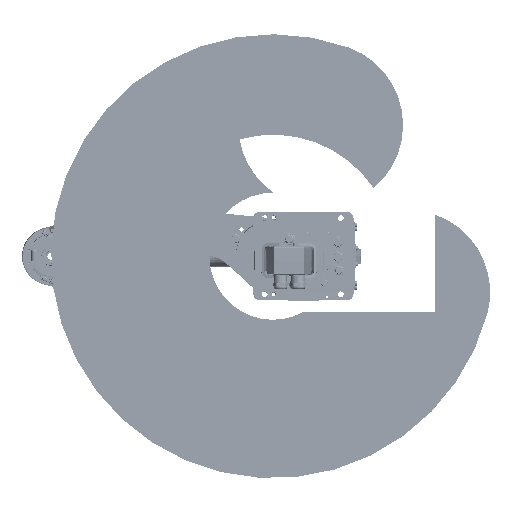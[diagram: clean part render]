
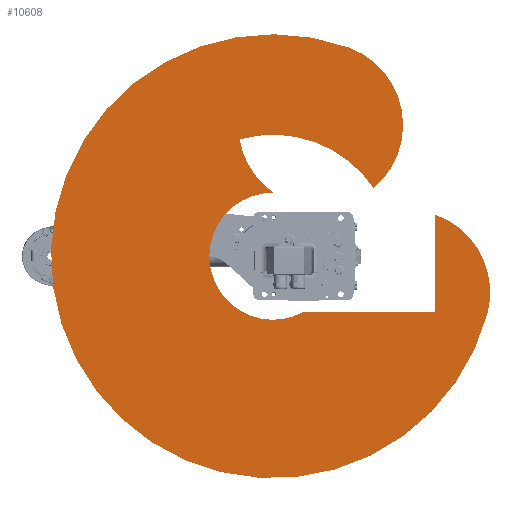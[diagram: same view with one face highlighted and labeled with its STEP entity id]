
A CAD part, front view. The second image highlights one B-rep face of the part: STEP entity #10608.
In plain terms, the highlighted planar face has unit normal (0, -1, 0).
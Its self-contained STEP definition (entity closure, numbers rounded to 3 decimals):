
#10608 = ADVANCED_FACE( '', ( #23464 ), #23465, .F. );
#23464 = FACE_OUTER_BOUND( '', #38940, .T. );
#23465 = PLANE( '', #38941 );
#38940 = EDGE_LOOP( '', ( #69121, #69122, #69123, #69124, #69125, #69126, #69127, #69128 ) );
#38941 = AXIS2_PLACEMENT_3D( '', #69129, #69130, #69131 );
#69121 = ORIENTED_EDGE( '', *, *, #81780, .T. );
#69122 = ORIENTED_EDGE( '', *, *, #90011, .F. );
#69123 = ORIENTED_EDGE( '', *, *, #90012, .F. );
#69124 = ORIENTED_EDGE( '', *, *, #84321, .F. );
#69125 = ORIENTED_EDGE( '', *, *, #90013, .F. );
#69126 = ORIENTED_EDGE( '', *, *, #86630, .T. );
#69127 = ORIENTED_EDGE( '', *, *, #84143, .T. );
#69128 = ORIENTED_EDGE( '', *, *, #87473, .T. );
#69129 = CARTESIAN_POINT( '', ( 28.47, 0., 106.252 ) );
#69130 = DIRECTION( '', ( 0., 1., 0. ) );
#69131 = DIRECTION( '', ( 0., 0., 1. ) );
#81780 = EDGE_CURVE( '', #98051, #98052, #98053, .T. );
#84143 = EDGE_CURVE( '', #101912, #101913, #101914, .T. );
#84321 = EDGE_CURVE( '', #102193, #102196, #102197, .T. );
#86630 = EDGE_CURVE( '', #105547, #101912, #105548, .T. );
#87473 = EDGE_CURVE( '', #101913, #98051, #106735, .T. );
#90011 = EDGE_CURVE( '', #109952, #98052, #109953, .T. );
#90012 = EDGE_CURVE( '', #102196, #109952, #109954, .T. );
#90013 = EDGE_CURVE( '', #105547, #102193, #109955, .T. );
#98051 = VERTEX_POINT( '', #122322 );
#98052 = VERTEX_POINT( '', #122323 );
#98053 = CIRCLE( '', #122324, 191.57 );
#101912 = VERTEX_POINT( '', #128967 );
#101913 = VERTEX_POINT( '', #128968 );
#101914 = CIRCLE( '', #128969, 100.24 );
#102193 = VERTEX_POINT( '', #129399 );
#102196 = VERTEX_POINT( '', #129403 );
#102197 = CIRCLE( '', #129404, 130. );
#105547 = VERTEX_POINT( '', #134948 );
#105548 = LINE( '', #134949, #134950 );
#106735 = CIRCLE( '', #136868, 130. );
#109952 = VERTEX_POINT( '', #142259 );
#109953 = CIRCLE( '', #142260, 130. );
#109954 = CIRCLE( '', #142261, 350. );
#109955 = LINE( '', #142262, #142263 );
#122322 = CARTESIAN_POINT( '', ( -184.156, 0., -52.78 ) );
#122323 = CARTESIAN_POINT( '', ( -107.145, 0., 158.805 ) );
#122324 = AXIS2_PLACEMENT_3D( '', #149013, #149014, #149015 );
#128967 = CARTESIAN_POINT( '', ( 88., 0., 48.001 ) );
#128968 = CARTESIAN_POINT( '', ( -100.238, 0., 0.687 ) );
#128969 = AXIS2_PLACEMENT_3D( '', #151865, #151866, #151867 );
#129399 = CARTESIAN_POINT( '', ( -65.918, 0., 255. ) );
#129403 = CARTESIAN_POINT( '', ( 90.587, 0., 338.074 ) );
#129404 = AXIS2_PLACEMENT_3D( '', #152061, #152062, #152063 );
#134948 = CARTESIAN_POINT( '', ( 88., 0., 255. ) );
#134949 = CARTESIAN_POINT( '', ( 88., 0., 255. ) );
#134950 = VECTOR( '', #154504, 1000. );
#136868 = AXIS2_PLACEMENT_3D( '', #155391, #155392, #155393 );
#142259 = CARTESIAN_POINT( '', ( -328.892, 0., 119.707 ) );
#142260 = AXIS2_PLACEMENT_3D( '', #157670, #157671, #157672 );
#142261 = AXIS2_PLACEMENT_3D( '', #157673, #157674, #157675 );
#142262 = CARTESIAN_POINT( '', ( 28.47, 0., 255. ) );
#142263 = VECTOR( '', #157676, 1000. );
#149013 = CARTESIAN_POINT( '', ( 0., 0., 0. ) );
#149014 = DIRECTION( '', ( 0., 1., 0. ) );
#149015 = DIRECTION( '', ( 1., 0., 0. ) );
#151865 = CARTESIAN_POINT( '', ( 0., 0., 0. ) );
#151866 = DIRECTION( '', ( 0., 1., 0. ) );
#151867 = DIRECTION( '', ( 1., 0., 0. ) );
#152061 = CARTESIAN_POINT( '', ( 56.94, 0., 212.504 ) );
#152062 = DIRECTION( '', ( 0., 1., 0. ) );
#152063 = DIRECTION( '', ( 1., 0., 0. ) );
#154504 = DIRECTION( '', ( 0., 0., -1. ) );
#155391 = CARTESIAN_POINT( '', ( -206.732, 0., 75.244 ) );
#155392 = DIRECTION( '', ( 0., 1., 0. ) );
#155393 = DIRECTION( '', ( 1., 0., 0. ) );
#157670 = CARTESIAN_POINT( '', ( -206.732, 0., 75.244 ) );
#157671 = DIRECTION( '', ( 0., 1., 0. ) );
#157672 = DIRECTION( '', ( 1., 0., 0. ) );
#157673 = CARTESIAN_POINT( '', ( 0., 0., 0. ) );
#157674 = DIRECTION( '', ( 0., 1., 0. ) );
#157675 = DIRECTION( '', ( 1., 0., 0. ) );
#157676 = DIRECTION( '', ( -1., 0., 0. ) );
